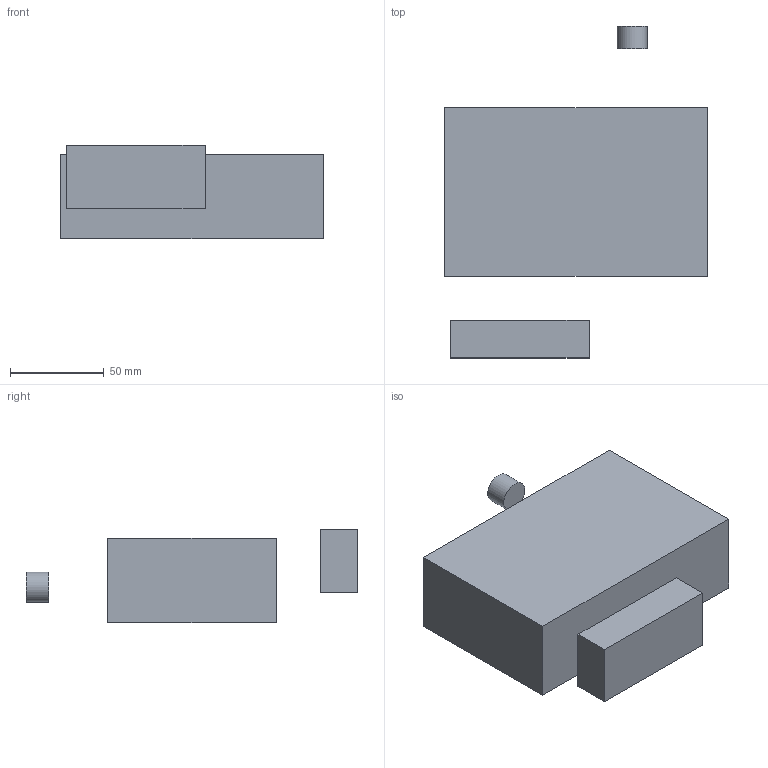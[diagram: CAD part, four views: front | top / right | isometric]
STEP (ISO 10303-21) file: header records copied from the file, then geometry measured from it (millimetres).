
FILE_DESCRIPTION(('Open CASCADE Model'),'2;1');
FILE_NAME('Open CASCADE Shape Model','2026-10-28T07:21:37',('Author'),( 'Open CASCADE'),'Open CASCADE STEP processor 7.8','Open CASCADE 7.8' ,'Unknown');
FILE_SCHEMA(('AUTOMOTIVE_DESIGN { 1 0 10303 214 1 1 1 1 }'));
Length unit declared in the file: millimetre
Products named in the file (4): Open CASCADE STEP translator 7.8 3; Open CASCADE STEP translator 7.8 3.1; Open CASCADE STEP translator 7.8 3.2; Open CASCADE STEP translator 7.8 3.3
Assembly tree (3 placements, depth 2):
  Open CASCADE STEP translator 7.8 3
    Open CASCADE STEP translator 7.8 3.1
    Open CASCADE STEP translator 7.8 3.2
    Open CASCADE STEP translator 7.8 3.3
Bounding box: 140 x 177 x 50 mm (x, y, z)
Volume: 619732.7 mm3; surface area: 56257.3 mm2
Topology: 3 solids, 3 shells, 15 faces, 27 edges, 18 vertices
Faces by surface type: plane 14, cylinder 1
Full cylindrical faces by diameter (mm): 16 x1
Entity records: 774 total; most frequent: DIRECTION 121, CARTESIAN_POINT 118, LINE 77, VECTOR 77, ORIENTED_EDGE 54, PCURVE 54, DEFINITIONAL_REPRESENTATION 54, EDGE_CURVE 27
